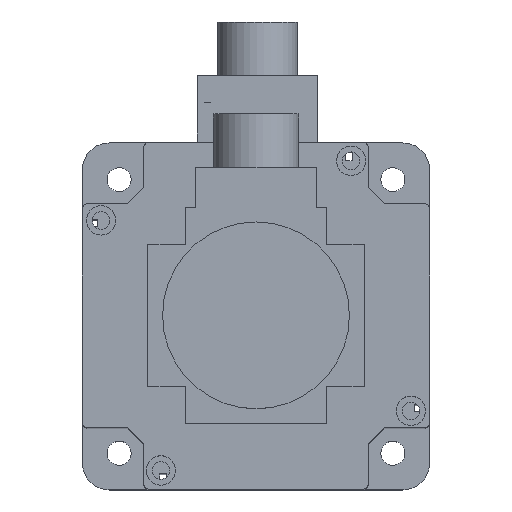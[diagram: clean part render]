
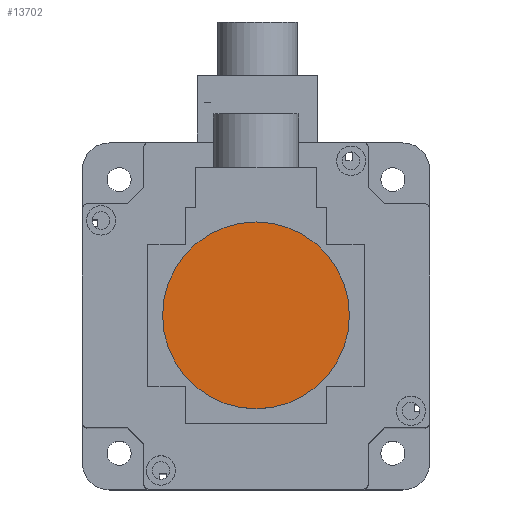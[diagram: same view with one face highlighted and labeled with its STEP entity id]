
A CAD part, top view. The second image highlights one B-rep face of the part: STEP entity #13702.
In plain terms, the highlighted planar face has unit normal (0, 0, 1).
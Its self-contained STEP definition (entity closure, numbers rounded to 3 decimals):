
#474 = CARTESIAN_POINT ( 'NONE',  ( 5.5, 40.5, 3. ) ) ;
#535 = AXIS2_PLACEMENT_3D ( 'NONE', #1100, #16300, #16531 ) ;
#704 = EDGE_CURVE ( 'NONE', #3255, #13512, #11028, .T. ) ;
#1100 = CARTESIAN_POINT ( 'NONE',  ( 40.5, 40.5, 3. ) ) ;
#2753 = DIRECTION ( 'NONE',  ( 0., 0., 1. ) ) ;
#3255 = VERTEX_POINT ( 'NONE', #6992 ) ;
#5354 = CARTESIAN_POINT ( 'NONE',  ( 40.5, 40.5, 3. ) ) ;
#5405 = DIRECTION ( 'NONE',  ( 1., 0., 0. ) ) ;
#5514 = ORIENTED_EDGE ( 'NONE', *, *, #12054, .T. ) ;
#5782 = CIRCLE ( 'NONE', #9633, 35. ) ;
#6133 = PLANE ( 'NONE',  #535 ) ;
#6328 = FACE_OUTER_BOUND ( 'NONE', #13711, .T. ) ;
#6992 = CARTESIAN_POINT ( 'NONE',  ( 75.5, 40.5, 3. ) ) ;
#7855 = DIRECTION ( 'NONE',  ( 1., 0., 0. ) ) ;
#7905 = ORIENTED_EDGE ( 'NONE', *, *, #704, .T. ) ;
#9163 = CARTESIAN_POINT ( 'NONE',  ( 40.5, 40.5, 3. ) ) ;
#9633 = AXIS2_PLACEMENT_3D ( 'NONE', #5354, #10348, #5405 ) ;
#10348 = DIRECTION ( 'NONE',  ( 0., 0., 1. ) ) ;
#11028 = CIRCLE ( 'NONE', #11655, 35. ) ;
#11655 = AXIS2_PLACEMENT_3D ( 'NONE', #9163, #2753, #7855 ) ;
#12054 = EDGE_CURVE ( 'NONE', #13512, #3255, #5782, .T. ) ;
#13512 = VERTEX_POINT ( 'NONE', #474 ) ;
#13702 = ADVANCED_FACE ( 'NONE', ( #6328 ), #6133, .T. ) ;
#13711 = EDGE_LOOP ( 'NONE', ( #5514, #7905 ) ) ;
#16300 = DIRECTION ( 'NONE',  ( 0., 0., 1. ) ) ;
#16531 = DIRECTION ( 'NONE',  ( 1., 0., 0. ) ) ;
